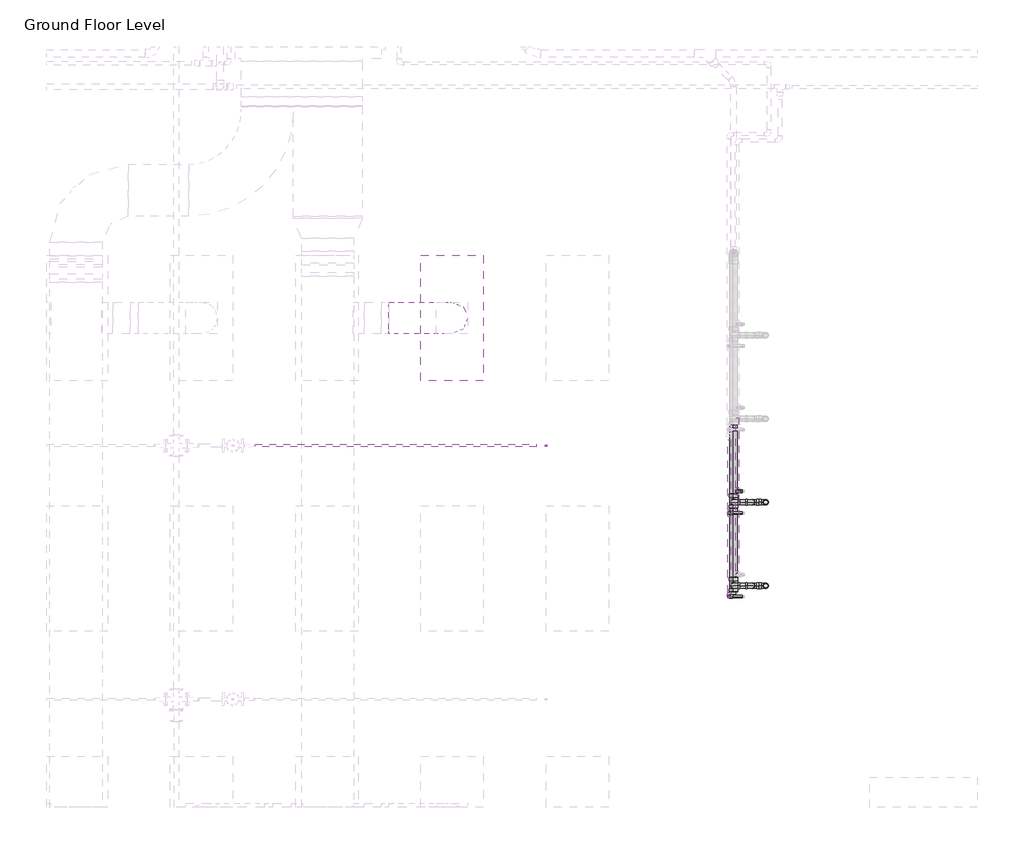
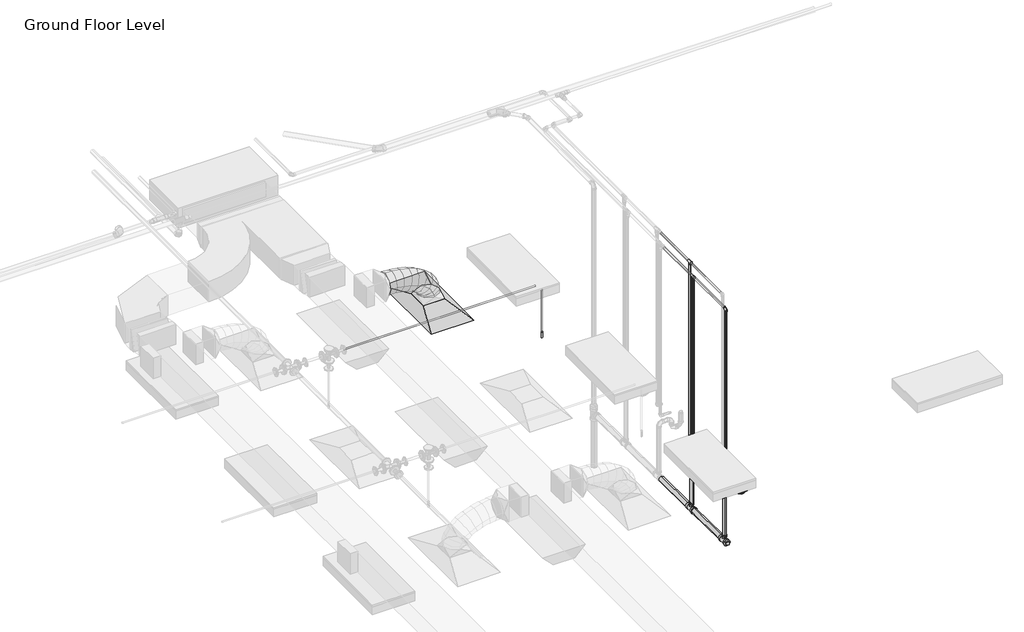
# One storey, part 49 of 68: 24 pipe segments, 17 pipe fittings, 1 air terminal, 1 duct segment, 1 fire suppression terminal.
"""IFC4 building model written with IfcOpenShell, lengths in millimetres."""

from ifc_helpers import new_model, si_unit, point, frame, frame_2d, origin, place, context, project, spatial, circle_curve, ellipse_curve, trimmed, segment, composite_curve, outline, extrude, transform, mapped, element, save
from ifc_brep_helpers import plane_surface, cylinder_surface, advanced_brep
from components import m_return_diffuser_1200x600_1200_x_600_face_300_x_300_d1983ef6, m_sprinkler_dry_pendent_hosted_15_mm_dry_pendent_9bda8e11, m_bend_pvc_sch_40_dwv_standard_738aab8b, m_plug_pvc_sch_40_dwv_standard_af737ab4, m_tee_reducing_sanitary_pvc_sch_40_dwv_standard_21d2848c, standard_b266ab3f, standard_636910a4

model = new_model("IFC4")

# Units and contexts
model_context = context("Model", 3, world=origin())
ifc_project = project(units=[si_unit("LENGTHUNIT", "METRE", prefix="MILLI")], contexts=[model_context])

# Site, building, storey
site = spatial("IfcSite", under=ifc_project)
building = spatial("IfcBuilding", under=site)
storey = spatial("IfcBuildingStorey", under=building, Name="Ground Floor Level", Elevation=900.0)

# Air terminal
placement = place(None, origin())
m_return_diffuser_1200x600_1200_x_600_face_300_x_300_shape = m_return_diffuser_1200x600_1200_x_600_face_300_x_300_d1983ef6(model_context)
element("IfcAirTerminal", 1, ObjectType="M_Supply Diffuser 1200x600 : 1200 x 600 Face 300 x 300 Connection", at=placement, inside=storey, context=model_context, shape_type="MappedRepresentation", body=[
    mapped(m_return_diffuser_1200x600_1200_x_600_face_300_x_300_shape, transform((-3337.2327605, 11235.2153534, 3650.0), x_axis=(0.0, 1.0, 0.0), y_axis=(-1.0, 0.0, 0.0), z_axis=(0.0, 0.0, 1.0))),
])

# Duct segment
element("IfcDuctSegment", 2, ObjectType="Flex - Round", at=placement, inside=storey, context=model_context, shape_type="AdvancedBrep", body=[
    advanced_brep(
    [(-3187.2327605, 11235.2153534, 3826.6), (-3337.2327605, 11085.2153534, 3826.6), (-3487.2327605, 11235.2153534, 3826.6), (-3337.2327605, 11385.2153534, 3826.6), (-3187.2327605, 11235.2153534, 3882.126257), (-3337.2327605, 11085.2153534, 3857.3050511), (-3487.2327605, 11235.2153534, 3832.4838453), (-3337.2327605, 11385.2153534, 3857.3050511), (-3218.4262882, 11235.2153534, 3973.8000574), (-3353.8942835, 11085.2153534, 3906.2711428), (-3489.3622789, 11235.2153534, 3838.7422282), (-3353.8942835, 11385.2153534, 3906.2711428), (-3288.1608022, 11235.2153534, 4076.4131518), (-3399.7726231, 11085.2153534, 3973.7803017), (-3511.3844439, 11235.2153534, 3871.1474515), (-3399.7726231, 11385.2153534, 3973.7803017), (-3386.0893727, 11235.2153534, 4155.7119505), (-3468.7084348, 11085.2153534, 4029.6018768), (-3551.3274968, 11235.2153534, 3903.4918031), (-3468.7084348, 11385.2153534, 4029.6018768), (-3494.8345319, 11235.2153534, 4212.2274343), (-3554.5423743, 11085.2153534, 4074.2102682), (-3614.2502168, 11235.2153534, 3936.193102), (-3554.5423743, 11385.2153534, 4074.2102682), (-3609.1269227, 11235.2153534, 4252.3116148), (-3651.1150974, 11085.2153534, 4108.0798761), (-3693.1032721, 11235.2153534, 3963.8481373), (-3651.1150974, 11385.2153534, 4108.0798761), (-3724.8585456, 11235.2153534, 4279.3191535), (-3752.2672597, 11085.2153534, 4131.6851006), (-3779.6759737, 11235.2153534, 3984.0510476), (-3752.2672597, 11385.2153534, 4131.6851006), (-3837.5181627, 11235.2153534, 4294.9502122), (-3851.8395168, 11085.2153534, 4145.5003418), (-3866.1608709, 11235.2153534, 3996.0504715), (-3851.8395168, 11385.2153534, 4145.5003418), (-3932.3402653, 11235.2153534, 4300.0), (-3936.3315914, 11085.2153534, 4150.0), (-3940.3229175, 11235.2153534, 4000.0), (-3936.3315914, 11385.2153534, 4150.0), (-3943.6725245, 11235.2153534, 4300.0), (-3943.6725245, 11385.2153534, 4150.0), (-3943.6725245, 11235.2153534, 4000.0), (-3943.6725245, 11085.2153534, 4150.0)],
    [
        (0, 1, circle_curve(frame((-3337.2327605, 11235.2153534, 3826.6), z_axis=(0.0, 0.0, -1.0), x_axis=(1.0, 0.0, 0.0)), 150.0)),
        (1, 2, circle_curve(frame((-3337.2327605, 11235.2153534, 3826.6), z_axis=(0.0, 0.0, -1.0), x_axis=(1.0, 0.0, 0.0)), 150.0)),
        (2, 3, circle_curve(frame((-3337.2327605, 11235.2153534, 3826.6), z_axis=(0.0, 0.0, -1.0), x_axis=(1.0, 0.0, 0.0)), 150.0)),
        (3, 0, circle_curve(frame((-3337.2327605, 11235.2153534, 3826.6), z_axis=(0.0, 0.0, -1.0), x_axis=(1.0, 0.0, 0.0)), 150.0)),
        (0, 4),
        (4, 5, ellipse_curve(frame((-3337.2327605, 11235.2153534, 3857.3050511), z_axis=(0.16325469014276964, 0.0, -0.9865839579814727), x_axis=(-0.9865839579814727, 0.0, -0.16325469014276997)), 152.039772, 150.0)),
        (5, 1),
        (5, 6, ellipse_curve(frame((-3337.2327605, 11235.2153534, 3857.3050511), z_axis=(0.16325469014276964, 0.0, -0.9865839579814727), x_axis=(-0.9865839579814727, 0.0, -0.16325469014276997)), 152.039772, 150.0)),
        (6, 2),
        (6, 7, ellipse_curve(frame((-3337.2327605, 11235.2153534, 3857.3050511), z_axis=(0.16325469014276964, 0.0, -0.9865839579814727), x_axis=(-0.9865839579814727, 0.0, -0.16325469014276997)), 152.039772, 150.0)),
        (7, 3),
        (7, 4, ellipse_curve(frame((-3337.2327605, 11235.2153534, 3857.3050511), z_axis=(0.16325469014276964, 0.0, -0.9865839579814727), x_axis=(-0.9865839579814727, 0.0, -0.16325469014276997)), 152.039772, 150.0)),
        (4, 8),
        (8, 9, ellipse_curve(frame((-3353.8942835, 11235.2153534, 3906.2711428), z_axis=(0.4461293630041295, 0.0, -0.8949684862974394), x_axis=(-0.8949684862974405, 0.0, -0.4461293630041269)), 151.3662184, 150.0)),
        (9, 5),
        (9, 10, ellipse_curve(frame((-3353.8942835, 11235.2153534, 3906.2711428), z_axis=(0.4461293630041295, 0.0, -0.8949684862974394), x_axis=(-0.8949684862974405, 0.0, -0.4461293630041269)), 151.3662184, 150.0)),
        (10, 6),
        (10, 11, ellipse_curve(frame((-3353.8942835, 11235.2153534, 3906.2711428), z_axis=(0.4461293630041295, 0.0, -0.8949684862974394), x_axis=(-0.8949684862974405, 0.0, -0.4461293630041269)), 151.3662184, 150.0)),
        (11, 7),
        (11, 8, ellipse_curve(frame((-3353.8942835, 11235.2153534, 3906.2711428), z_axis=(0.4461293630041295, 0.0, -0.8949684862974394), x_axis=(-0.8949684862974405, 0.0, -0.4461293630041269)), 151.3662184, 150.0)),
        (8, 12),
        (12, 13, ellipse_curve(frame((-3399.7726231, 11235.2153534, 3973.7803017), z_axis=(0.6768778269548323, 0.0, -0.7360953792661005), x_axis=(-0.7360953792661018, 0.0, -0.676877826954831)), 151.6268462, 150.0)),
        (13, 9),
        (13, 14, ellipse_curve(frame((-3399.7726231, 11235.2153534, 3973.7803017), z_axis=(0.6768778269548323, 0.0, -0.7360953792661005), x_axis=(-0.7360953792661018, 0.0, -0.676877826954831)), 151.6268462, 150.0)),
        (14, 10),
        (14, 15, ellipse_curve(frame((-3399.7726231, 11235.2153534, 3973.7803017), z_axis=(0.6768778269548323, 0.0, -0.7360953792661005), x_axis=(-0.7360953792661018, 0.0, -0.676877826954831)), 151.6268462, 150.0)),
        (15, 11),
        (15, 12, ellipse_curve(frame((-3399.7726231, 11235.2153534, 3973.7803017), z_axis=(0.6768778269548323, 0.0, -0.7360953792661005), x_axis=(-0.7360953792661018, 0.0, -0.676877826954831)), 151.6268462, 150.0)),
        (12, 16),
        (16, 17, ellipse_curve(frame((-3468.7084348, 11235.2153534, 4029.6018768), z_axis=(0.8364756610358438, 0.0, -0.5480040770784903), x_axis=(-0.5480040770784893, 0.0, -0.8364756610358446)), 150.7635901, 150.0)),
        (17, 13),
        (17, 18, ellipse_curve(frame((-3468.7084348, 11235.2153534, 4029.6018768), z_axis=(0.8364756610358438, 0.0, -0.5480040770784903), x_axis=(-0.5480040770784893, 0.0, -0.8364756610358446)), 150.7635901, 150.0)),
        (18, 14),
        (18, 19, ellipse_curve(frame((-3468.7084348, 11235.2153534, 4029.6018768), z_axis=(0.8364756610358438, 0.0, -0.5480040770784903), x_axis=(-0.5480040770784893, 0.0, -0.8364756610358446)), 150.7635901, 150.0)),
        (19, 15),
        (19, 16, ellipse_curve(frame((-3468.7084348, 11235.2153534, 4029.6018768), z_axis=(0.8364756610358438, 0.0, -0.5480040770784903), x_axis=(-0.5480040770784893, 0.0, -0.8364756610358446)), 150.7635901, 150.0)),
        (16, 20),
        (20, 21, ellipse_curve(frame((-3554.5423743, 11235.2153534, 4074.2102682), z_axis=(0.9177970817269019, 0.0, -0.3970497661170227), x_axis=(-0.39704976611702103, 0.0, -0.9177970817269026)), 150.3787372, 150.0)),
        (21, 17),
        (21, 22, ellipse_curve(frame((-3554.5423743, 11235.2153534, 4074.2102682), z_axis=(0.9177970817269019, 0.0, -0.3970497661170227), x_axis=(-0.39704976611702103, 0.0, -0.9177970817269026)), 150.3787372, 150.0)),
        (22, 18),
        (22, 23, ellipse_curve(frame((-3554.5423743, 11235.2153534, 4074.2102682), z_axis=(0.9177970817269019, 0.0, -0.3970497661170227), x_axis=(-0.39704976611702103, 0.0, -0.9177970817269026)), 150.3787372, 150.0)),
        (23, 19),
        (23, 20, ellipse_curve(frame((-3554.5423743, 11235.2153534, 4074.2102682), z_axis=(0.9177970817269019, 0.0, -0.3970497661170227), x_axis=(-0.39704976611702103, 0.0, -0.9177970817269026)), 150.3787372, 150.0)),
        (20, 24),
        (24, 25, ellipse_curve(frame((-3651.1150974, 11235.2153534, 4108.0798761), z_axis=(0.9601419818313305, 0.0, -0.2795127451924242), x_axis=(-0.2795127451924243, 0.0, -0.9601419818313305)), 150.2191774, 150.0)),
        (25, 21),
        (25, 26, ellipse_curve(frame((-3651.1150974, 11235.2153534, 4108.0798761), z_axis=(0.9601419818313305, 0.0, -0.2795127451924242), x_axis=(-0.2795127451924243, 0.0, -0.9601419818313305)), 150.2191774, 150.0)),
        (26, 22),
        (26, 27, ellipse_curve(frame((-3651.1150974, 11235.2153534, 4108.0798761), z_axis=(0.9601419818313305, 0.0, -0.2795127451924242), x_axis=(-0.2795127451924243, 0.0, -0.9601419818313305)), 150.2191774, 150.0)),
        (27, 23),
        (27, 24, ellipse_curve(frame((-3651.1150974, 11235.2153534, 4108.0798761), z_axis=(0.9601419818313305, 0.0, -0.2795127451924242), x_axis=(-0.2795127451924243, 0.0, -0.9601419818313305)), 150.2191774, 150.0)),
        (24, 28),
        (28, 29, ellipse_curve(frame((-3752.2672597, 11235.2153534, 4131.6851006), z_axis=(0.9831995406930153, 0.0, -0.18253400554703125), x_axis=(-0.18253400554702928, 0.0, -0.9831995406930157)), 150.1567554, 150.0)),
        (29, 25),
        (29, 30, ellipse_curve(frame((-3752.2672597, 11235.2153534, 4131.6851006), z_axis=(0.9831995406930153, 0.0, -0.18253400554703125), x_axis=(-0.18253400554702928, 0.0, -0.9831995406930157)), 150.1567554, 150.0)),
        (30, 26),
        (30, 31, ellipse_curve(frame((-3752.2672597, 11235.2153534, 4131.6851006), z_axis=(0.9831995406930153, 0.0, -0.18253400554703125), x_axis=(-0.18253400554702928, 0.0, -0.9831995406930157)), 150.1567554, 150.0)),
        (31, 27),
        (31, 28, ellipse_curve(frame((-3752.2672597, 11235.2153534, 4131.6851006), z_axis=(0.9831995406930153, 0.0, -0.18253400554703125), x_axis=(-0.18253400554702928, 0.0, -0.9831995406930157)), 150.1567554, 150.0)),
        (28, 32),
        (32, 33, ellipse_curve(frame((-3851.8395168, 11235.2153534, 4145.5003418), z_axis=(0.9954399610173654, 0.0, -0.09539016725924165), x_axis=(-0.09539016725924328, 0.0, -0.9954399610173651)), 150.1344895, 150.0)),
        (33, 29),
        (33, 34, ellipse_curve(frame((-3851.8395168, 11235.2153534, 4145.5003418), z_axis=(0.9954399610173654, 0.0, -0.09539016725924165), x_axis=(-0.09539016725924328, 0.0, -0.9954399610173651)), 150.1344895, 150.0)),
        (34, 30),
        (34, 35, ellipse_curve(frame((-3851.8395168, 11235.2153534, 4145.5003418), z_axis=(0.9954399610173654, 0.0, -0.09539016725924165), x_axis=(-0.09539016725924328, 0.0, -0.9954399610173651)), 150.1344895, 150.0)),
        (35, 31),
        (35, 32, ellipse_curve(frame((-3851.8395168, 11235.2153534, 4145.5003418), z_axis=(0.9954399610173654, 0.0, -0.09539016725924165), x_axis=(-0.09539016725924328, 0.0, -0.9954399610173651)), 150.1344895, 150.0)),
        (32, 36),
        (36, 37, ellipse_curve(frame((-3936.3315914, 11235.2153534, 4150.0), z_axis=(0.9996461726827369, 0.0, -0.026599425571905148), x_axis=(-0.026599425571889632, 0.0, -0.9996461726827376)), 150.0530929, 150.0)),
        (37, 33),
        (37, 38, ellipse_curve(frame((-3936.3315914, 11235.2153534, 4150.0), z_axis=(0.9996461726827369, 0.0, -0.026599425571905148), x_axis=(-0.026599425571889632, 0.0, -0.9996461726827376)), 150.0530929, 150.0)),
        (38, 34),
        (38, 39, ellipse_curve(frame((-3936.3315914, 11235.2153534, 4150.0), z_axis=(0.9996461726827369, 0.0, -0.026599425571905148), x_axis=(-0.026599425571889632, 0.0, -0.9996461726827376)), 150.0530929, 150.0)),
        (39, 35),
        (39, 36, ellipse_curve(frame((-3936.3315914, 11235.2153534, 4150.0), z_axis=(0.9996461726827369, 0.0, -0.026599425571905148), x_axis=(-0.026599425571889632, 0.0, -0.9996461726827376)), 150.0530929, 150.0)),
        (40, 41, circle_curve(frame((-3943.6725245, 11235.2153534, 4150.0), z_axis=(-1.0, 0.0, 0.0), x_axis=(0.0, 0.0, 1.0)), 150.0)),
        (41, 42, circle_curve(frame((-3943.6725245, 11235.2153534, 4150.0), z_axis=(-1.0, 0.0, 0.0), x_axis=(0.0, 0.0, 1.0)), 150.0)),
        (42, 43, circle_curve(frame((-3943.6725245, 11235.2153534, 4150.0), z_axis=(-1.0, 0.0, 0.0), x_axis=(0.0, 0.0, 1.0)), 150.0)),
        (43, 40, circle_curve(frame((-3943.6725245, 11235.2153534, 4150.0), z_axis=(-1.0, 0.0, 0.0), x_axis=(0.0, 0.0, 1.0)), 150.0)),
        (36, 40),
        (43, 37),
        (42, 38),
        (41, 39),
    ],
    [
        plane_surface(frame((-3337.2327605, 11085.2153534, 3826.6), z_axis=(0.0, 0.0, -1.0), x_axis=(1.0, 0.0, 0.0))),
        cylinder_surface(frame((-3337.2327605, 11235.2153534, 3826.6), z_axis=(0.0, 0.0, -1.0), x_axis=(1.0, 0.0, 0.0)), 150.0),
        cylinder_surface(frame((-3337.2327605, 11235.2153534, 3857.3050511), z_axis=(0.3221289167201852, 0.0, -0.9466958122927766), x_axis=(0.9466958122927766, 0.0, 0.3221289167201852)), 150.0),
        cylinder_surface(frame((-3353.8942835, 11235.2153534, 3906.2711428), z_axis=(0.5620763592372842, 0.0, -0.827085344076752), x_axis=(0.827085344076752, 0.0, 0.5620763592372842)), 150.0),
        cylinder_surface(frame((-3399.7726231, 11235.2153534, 3973.7803017), z_axis=(0.7771544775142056, 0.0, -0.6293098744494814), x_axis=(0.6293098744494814, 0.0, 0.7771544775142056)), 150.0),
        cylinder_surface(frame((-3468.7084348, 11235.2153534, 4029.6018768), z_axis=(0.8873236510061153, 0.0, -0.4611471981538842), x_axis=(0.4611471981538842, 0.0, 0.8873236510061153)), 150.0),
        cylinder_surface(frame((-3554.5423743, 11235.2153534, 4074.2102682), z_axis=(0.9436474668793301, 0.0, -0.3309523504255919), x_axis=(0.3309523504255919, 0.0, 0.9436474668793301)), 150.0),
        cylinder_surface(frame((-3651.1150974, 11235.2153534, 4108.0798761), z_axis=(0.9738347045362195, 0.0, -0.22725749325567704), x_axis=(0.22725749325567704, 0.0, 0.9738347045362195)), 150.0),
        cylinder_surface(frame((-3752.2672597, 11235.2153534, 4131.6851006), z_axis=(0.9905115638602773, 0.0, -0.1374294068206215), x_axis=(0.1374294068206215, 0.0, 0.9905115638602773)), 150.0),
        cylinder_surface(frame((-3851.8395168, 11235.2153534, 4145.5003418), z_axis=(0.9985849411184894, 0.0, -0.05318002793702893), x_axis=(0.05318002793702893, 0.0, 0.9985849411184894)), 150.0),
        plane_surface(frame((-3943.6725245, 11235.2153534, 4000.0), z_axis=(-1.0, 0.0, 0.0), x_axis=(0.0, -1.0, 0.0))),
        cylinder_surface(frame((-3936.3315914, 11235.2153534, 4150.0), z_axis=(1.0, 0.0, 0.0), x_axis=(0.0, 0.0, 1.0)), 150.0),
    ],
    [
        (0, [[1, 2, 3, 4]]),
        (1, [[-1, 5, 6, 7]]),
        (1, [[-2, -7, 8, 9]]),
        (1, [[-3, -9, 10, 11]]),
        (1, [[-4, -11, 12, -5]]),
        (2, [[-6, 13, 14, 15]]),
        (2, [[-8, -15, 16, 17]]),
        (2, [[-10, -17, 18, 19]]),
        (2, [[-12, -19, 20, -13]]),
        (3, [[-14, 21, 22, 23]]),
        (3, [[-16, -23, 24, 25]]),
        (3, [[-18, -25, 26, 27]]),
        (3, [[-20, -27, 28, -21]]),
        (4, [[-22, 29, 30, 31]]),
        (4, [[-24, -31, 32, 33]]),
        (4, [[-26, -33, 34, 35]]),
        (4, [[-28, -35, 36, -29]]),
        (5, [[-30, 37, 38, 39]]),
        (5, [[-32, -39, 40, 41]]),
        (5, [[-34, -41, 42, 43]]),
        (5, [[-36, -43, 44, -37]]),
        (6, [[-38, 45, 46, 47]]),
        (6, [[-40, -47, 48, 49]]),
        (6, [[-42, -49, 50, 51]]),
        (6, [[-44, -51, 52, -45]]),
        (7, [[-46, 53, 54, 55]]),
        (7, [[-48, -55, 56, 57]]),
        (7, [[-50, -57, 58, 59]]),
        (7, [[-52, -59, 60, -53]]),
        (8, [[-54, 61, 62, 63]]),
        (8, [[-56, -63, 64, 65]]),
        (8, [[-58, -65, 66, 67]]),
        (8, [[-60, -67, 68, -61]]),
        (9, [[-62, 69, 70, 71]]),
        (9, [[-64, -71, 72, 73]]),
        (9, [[-66, -73, 74, 75]]),
        (9, [[-68, -75, 76, -69]]),
        (10, [[77, 78, 79, 80]]),
        (11, [[-70, 81, -80, 82]]),
        (11, [[-72, -82, -79, 83]]),
        (11, [[-74, -83, -78, 84]]),
        (11, [[-76, -84, -77, -81]]),
    ],
),
])

# Fire suppression terminal
m_sprinkler_dry_pendent_hosted_15_mm_dry_pendent_shape = m_sprinkler_dry_pendent_hosted_15_mm_dry_pendent_9bda8e11(model_context)
element("IfcFireSuppressionTerminal", 3, ObjectType="M_Sprinkler - Dry - Pendent - Hosted : 15 mm Dry Pendent", at=placement, inside=storey, context=model_context, shape_type="MappedRepresentation", body=[
    mapped(m_sprinkler_dry_pendent_hosted_15_mm_dry_pendent_shape, transform((-2437.2327605, 10013.008259, 3650.0), x_axis=(1.0, 0.0, 0.0), y_axis=(0.0, -1.0, 0.0), z_axis=(0.0, 0.0, -1.0))),
])

# Pipe fittings
m_bend_pvc_sch_40_dwv_standard_shape = m_bend_pvc_sch_40_dwv_standard_738aab8b(model_context)
element("IfcPipeFitting", 4, ObjectType="M_Bend - PVC - Sch 40 - DWV : Standard", at=placement, inside=storey, context=model_context, shape_type="MappedRepresentation", body=[
    mapped(m_bend_pvc_sch_40_dwv_standard_shape, transform((-463.6645494, 8671.1979139, 1370.0), x_axis=(-1.0, 0.0, 0.0), y_axis=(0.0, 0.0, 1.0), z_axis=(0.0, 1.0, 0.0))),
])
element("IfcPipeFitting", 5, ObjectType="M_Bend - PVC - Sch 40 - DWV : Standard", at=placement, inside=storey, context=model_context, shape_type="MappedRepresentation", body=[
    mapped(m_bend_pvc_sch_40_dwv_standard_shape, transform((-463.6645494, 8671.1979139, 1510.0), x_axis=(0.0, 0.0, 1.0), y_axis=(-1.0, 0.0, 0.0), z_axis=(0.0, -1.0, 0.0))),
])
element("IfcPipeFitting", 6, ObjectType="M_Bend - PVC - Sch 40 - DWV : Standard", at=placement, inside=storey, context=model_context, shape_type="MappedRepresentation", body=[
    mapped(m_bend_pvc_sch_40_dwv_standard_shape, transform((-463.6645494, 9471.1979139, 1370.0), x_axis=(-1.0, 0.0, 0.0), y_axis=(0.0, 0.0, 1.0), z_axis=(0.0, 1.0, 0.0))),
])
element("IfcPipeFitting", 7, ObjectType="M_Bend - PVC - Sch 40 - DWV : Standard", at=placement, inside=storey, context=model_context, shape_type="MappedRepresentation", body=[
    mapped(m_bend_pvc_sch_40_dwv_standard_shape, transform((-463.6645494, 9471.1979139, 1510.0), x_axis=(0.0, 0.0, 1.0), y_axis=(-1.0, 0.0, 0.0), z_axis=(0.0, -1.0, 0.0))),
])
element("IfcPipeFitting", 8, ObjectType="M_Bend - PVC - Sch 40 - DWV : Standard", at=placement, inside=storey, context=model_context, shape_type="MappedRepresentation", body=[
    mapped(m_bend_pvc_sch_40_dwv_standard_shape, transform((-333.6645494, 8671.1979139, 1370.0), x_axis=(1.0, 0.0, 0.0), y_axis=(0.0, 0.0, 1.0), z_axis=(0.0, -1.0, 0.0))),
])
element("IfcPipeFitting", 9, ObjectType="M_Bend - PVC - Sch 40 - DWV : Standard", at=placement, inside=storey, context=model_context, shape_type="MappedRepresentation", body=[
    mapped(m_bend_pvc_sch_40_dwv_standard_shape, transform((-333.6645494, 9471.1979139, 1370.0), x_axis=(1.0, 0.0, 0.0), y_axis=(0.0, 0.0, 1.0), z_axis=(0.0, -1.0, 0.0))),
])
element("IfcPipeFitting", 10, ObjectType="M_Bend - PVC - Sch 40 - DWV : Standard", at=placement, inside=storey, context=model_context, shape_type="MappedRepresentation", body=[
    mapped(m_bend_pvc_sch_40_dwv_standard_shape, transform((-642.2301761, 8671.1979139, 1510.0), x_axis=(-1.0, 0.0, 0.0), y_axis=(0.0, 0.0, -1.0), z_axis=(0.0, -1.0, 0.0))),
])
element("IfcPipeFitting", 11, ObjectType="M_Bend - PVC - Sch 40 - DWV : Standard", at=placement, inside=storey, context=model_context, shape_type="MappedRepresentation", body=[
    mapped(m_bend_pvc_sch_40_dwv_standard_shape, transform((-642.2301761, 9471.1979139, 1510.0), x_axis=(-1.0, 0.0, 0.0), y_axis=(0.0, 0.0, -1.0), z_axis=(0.0, -1.0, 0.0))),
])
m_plug_pvc_sch_40_dwv_standard_shape = m_plug_pvc_sch_40_dwv_standard_af737ab4(model_context)
element("IfcPipeFitting", 12, ObjectType="M_Plug - PVC - Sch 40 - DWV : Standard", at=placement, inside=storey, context=model_context, shape_type="MappedRepresentation", body=[
    mapped(m_plug_pvc_sch_40_dwv_standard_shape, transform((-642.2301761, 8611.7151447, 727.6937137), x_axis=(0.0, -0.9999500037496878, 0.009999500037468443), y_axis=(0.0, -0.009999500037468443, -0.9999500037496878), z_axis=(1.0, 0.0, 0.0))),
])
m_tee_reducing_sanitary_pvc_sch_40_dwv_standard_shape = m_tee_reducing_sanitary_pvc_sch_40_dwv_standard_21d2848c(model_context)
element("IfcPipeFitting", 13, ObjectType="M_Tee Reducing Sanitary - PVC - Sch 40 - DWV : Standard", at=placement, inside=storey, context=model_context, shape_type="MappedRepresentation", body=[
    mapped(m_tee_reducing_sanitary_pvc_sch_40_dwv_standard_shape, transform((-642.2301761, 9471.1979139, 719.098886), x_axis=(0.0, -0.9999500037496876, 0.009999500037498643), y_axis=(0.0, -0.009999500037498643, -0.9999500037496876), z_axis=(1.0, 0.0, 0.0))),
])
element("IfcPipeFitting", 14, ObjectType="M_Tee Reducing Sanitary - PVC - Sch 40 - DWV : Standard", at=placement, inside=storey, context=model_context, shape_type="MappedRepresentation", body=[
    mapped(m_tee_reducing_sanitary_pvc_sch_40_dwv_standard_shape, transform((-642.2301761, 8671.1979139, 727.098886), x_axis=(0.0, -0.9999500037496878, 0.009999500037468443), y_axis=(0.0, -0.009999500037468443, -0.9999500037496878), z_axis=(1.0, 0.0, 0.0))),
])
standard_shape = standard_b266ab3f(model_context)
element("IfcPipeFitting", 15, ObjectType="M_Elbow - CPVC - Sch 40 : Standard", at=placement, inside=storey, context=model_context, shape_type="MappedRepresentation", body=[
    mapped(standard_shape, transform((-607.2327605, 9575.5128345, 1690.0), x_axis=(0.0, 0.0, -1.0), y_axis=(1.0, 0.0, 0.0), z_axis=(0.0, -1.0, 0.0))),
])
element("IfcPipeFitting", 16, ObjectType="M_Elbow - CPVC - Sch 40 : Standard", at=placement, inside=storey, context=model_context, shape_type="MappedRepresentation", body=[
    mapped(standard_shape, transform((-684.0671674, 8566.8829933, 1690.0), x_axis=(-1.0, 0.0, 0.0), y_axis=(0.0, 0.0, 1.0), z_axis=(0.0, 1.0, 0.0))),
])
element("IfcPipeFitting", 17, ObjectType="M_Elbow - CPVC - Sch 40 : Standard", at=placement, inside=storey, context=model_context, shape_type="MappedRepresentation", body=[
    mapped(standard_shape, transform((-684.0671674, 8566.8829933, 4250.0), x_axis=(0.0, 0.0, 1.0), y_axis=(0.0, 1.0, 0.0), z_axis=(-1.0, 0.0, 0.0))),
])
element("IfcPipeFitting", 18, ObjectType="M_Elbow - CPVC - Sch 40 : Standard", at=placement, inside=storey, context=model_context, shape_type="MappedRepresentation", body=[
    mapped(standard_shape, transform((-684.0671674, 9366.8829933, 1690.0), x_axis=(-1.0, 0.0, 0.0), y_axis=(0.0, 0.0, 1.0), z_axis=(0.0, 1.0, 0.0))),
])
standard_2_shape = standard_636910a4(model_context)
element("IfcPipeFitting", 19, ObjectType="M_Tee - CPVC - Sch 40 : Standard", at=placement, inside=storey, context=model_context, shape_type="MappedRepresentation", body=[
    mapped(standard_2_shape, transform((-607.2327605, 9575.5128345, 4315.0), x_axis=(0.0, 1.0, 0.0), y_axis=(0.0, 0.0, 1.0), z_axis=(1.0, 0.0, 0.0))),
])
element("IfcPipeFitting", 20, ObjectType="M_Tee - CPVC - Sch 40 : Standard", at=placement, inside=storey, context=model_context, shape_type="MappedRepresentation", body=[
    mapped(standard_2_shape, transform((-684.0671674, 9366.8829933, 4250.0), x_axis=(0.0, -1.0, 0.0), y_axis=(0.0, 0.0, 1.0), z_axis=(-1.0, 0.0, 0.0))),
])

# Pipe segments
element("IfcPipeSegment", 21, ObjectType="CPVC", at=placement, inside=storey, context=model_context, shape_type="SweptSolid", body=[
    extrude(outline(composite_curve([segment(trimmed(circle_curve(frame_2d((9575.5128345, 1690.0)), 13.335), [point((9562.1778345, 1690.0))], [point((9575.5128345, 1703.335))], False, "CARTESIAN"), True, "CONTINUOUS"), segment(trimmed(circle_curve(frame_2d((9575.5128345, 1690.0)), 13.335), [point((9575.5128345, 1703.335))], [point((9588.8478345, 1690.0))], False, "CARTESIAN"), True, "CONTINUOUS"), segment(trimmed(circle_curve(frame_2d((9575.5128345, 1690.0)), 13.335), [point((9588.8478345, 1690.0))], [point((9575.5128345, 1676.665))], False, "CARTESIAN"), True, "CONTINUOUS"), segment(trimmed(circle_curve(frame_2d((9575.5128345, 1690.0)), 13.335), [point((9575.5128345, 1676.665))], [point((9562.1778345, 1690.0))], False, "CARTESIAN"), True, "CONTINUOUS")], self_intersect=False)), frame((-571.9077105, 0.0, 0.0), z_axis=(1.0, 0.0, 0.0), x_axis=(0.0, 1.0, 0.0)), (0.0, 0.0, 1.0), 14.67495),
])
element("IfcPipeSegment", 22, ObjectType="CPVC", at=placement, inside=storey, context=model_context, shape_type="SweptSolid", body=[
    extrude(outline(composite_curve([segment(trimmed(circle_curve(frame_2d((-607.2327605, 9575.5128345)), 13.335), [point((-593.8977605, 9575.5128345))], [point((-607.2327605, 9562.1778345))], False, "CARTESIAN"), True, "CONTINUOUS"), segment(trimmed(circle_curve(frame_2d((-607.2327605, 9575.5128345)), 13.335), [point((-607.2327605, 9562.1778345))], [point((-620.5677605, 9575.5128345))], False, "CARTESIAN"), True, "CONTINUOUS"), segment(trimmed(circle_curve(frame_2d((-607.2327605, 9575.5128345)), 13.335), [point((-620.5677605, 9575.5128345))], [point((-607.2327605, 9588.8478345))], False, "CARTESIAN"), True, "CONTINUOUS"), segment(trimmed(circle_curve(frame_2d((-607.2327605, 9575.5128345)), 13.335), [point((-607.2327605, 9588.8478345))], [point((-593.8977605, 9575.5128345))], False, "CARTESIAN"), True, "CONTINUOUS")], self_intersect=False)), frame((0.0, 0.0, 1725.32505), z_axis=(0.0, 0.0, 1.0), x_axis=(1.0, 0.0, 0.0)), (0.0, 0.0, 1.0), 2557.13755),
])
element("IfcPipeSegment", 23, ObjectType="CPVC", at=placement, inside=storey, context=model_context, shape_type="SweptSolid", body=[
    extrude(outline(composite_curve([segment(trimmed(circle_curve(frame_2d((4315.0, -607.2327605)), 13.335), [point((4315.0, -620.5677605))], [point((4301.665, -607.2327605))], False, "CARTESIAN"), True, "CONTINUOUS"), segment(trimmed(circle_curve(frame_2d((4315.0, -607.2327605)), 13.335), [point((4301.665, -607.2327605))], [point((4315.0, -593.8977605))], False, "CARTESIAN"), True, "CONTINUOUS"), segment(trimmed(circle_curve(frame_2d((4315.0, -607.2327605)), 13.335), [point((4315.0, -593.8977605))], [point((4328.335, -607.2327605))], False, "CARTESIAN"), True, "CONTINUOUS"), segment(trimmed(circle_curve(frame_2d((4315.0, -607.2327605)), 13.335), [point((4328.335, -607.2327605))], [point((4315.0, -620.5677605))], False, "CARTESIAN"), True, "CONTINUOUS")], self_intersect=False)), frame((0.0, 9608.0502345, 0.0), z_axis=(0.0, 1.0, 0.0), x_axis=(0.0, 0.0, 1.0)), (0.0, 0.0, 1.0), 670.6124),
])
element("IfcPipeSegment", 24, ObjectType="CPVC", at=placement, inside=storey, context=model_context, shape_type="SweptSolid", body=[
    extrude(outline(composite_curve([segment(trimmed(circle_curve(frame_2d((4315.0, -607.2327605)), 13.335), [point((4315.0, -620.5677605))], [point((4301.665, -607.2327605))], False, "CARTESIAN"), True, "CONTINUOUS"), segment(trimmed(circle_curve(frame_2d((4315.0, -607.2327605)), 13.335), [point((4301.665, -607.2327605))], [point((4315.0, -593.8977605))], False, "CARTESIAN"), True, "CONTINUOUS"), segment(trimmed(circle_curve(frame_2d((4315.0, -607.2327605)), 13.335), [point((4315.0, -593.8977605))], [point((4328.335, -607.2327605))], False, "CARTESIAN"), True, "CONTINUOUS"), segment(trimmed(circle_curve(frame_2d((4315.0, -607.2327605)), 13.335), [point((4328.335, -607.2327605))], [point((4315.0, -620.5677605))], False, "CARTESIAN"), True, "CONTINUOUS")], self_intersect=False)), frame((0.0, 8810.8378845, 0.0), z_axis=(0.0, 1.0, 0.0), x_axis=(0.0, 0.0, 1.0)), (0.0, 0.0, 1.0), 732.13755),
])
element("IfcPipeSegment", 25, ObjectType="CPVC", at=placement, inside=storey, context=model_context, shape_type="SweptSolid", body=[
    extrude(outline(composite_curve([segment(trimmed(circle_curve(frame_2d((8566.8829933, 1690.0)), 13.335), [point((8580.2179933, 1690.0))], [point((8566.8829933, 1676.665))], False, "CARTESIAN"), True, "CONTINUOUS"), segment(trimmed(circle_curve(frame_2d((8566.8829933, 1690.0)), 13.335), [point((8566.8829933, 1676.665))], [point((8553.5479933, 1690.0))], False, "CARTESIAN"), True, "CONTINUOUS"), segment(trimmed(circle_curve(frame_2d((8566.8829933, 1690.0)), 13.335), [point((8553.5479933, 1690.0))], [point((8566.8829933, 1703.335))], False, "CARTESIAN"), True, "CONTINUOUS"), segment(trimmed(circle_curve(frame_2d((8566.8829933, 1690.0)), 13.335), [point((8566.8829933, 1703.335))], [point((8580.2179933, 1690.0))], False, "CARTESIAN"), True, "CONTINUOUS")], self_intersect=False)), frame((-648.7421174, 0.0, 0.0), z_axis=(1.0, 0.0, 0.0), x_axis=(0.0, 1.0, 0.0)), (0.0, 0.0, 1.0), 91.5093569),
])
element("IfcPipeSegment", 26, ObjectType="CPVC", at=placement, inside=storey, context=model_context, shape_type="SweptSolid", body=[
    extrude(outline(composite_curve([segment(trimmed(circle_curve(frame_2d((-684.0671674, 8566.8829933)), 13.335), [point((-697.4021674, 8566.8829933))], [point((-684.0671674, 8580.2179933))], False, "CARTESIAN"), True, "CONTINUOUS"), segment(trimmed(circle_curve(frame_2d((-684.0671674, 8566.8829933)), 13.335), [point((-684.0671674, 8580.2179933))], [point((-670.7321674, 8566.8829933))], False, "CARTESIAN"), True, "CONTINUOUS"), segment(trimmed(circle_curve(frame_2d((-684.0671674, 8566.8829933)), 13.335), [point((-670.7321674, 8566.8829933))], [point((-684.0671674, 8553.5479933))], False, "CARTESIAN"), True, "CONTINUOUS"), segment(trimmed(circle_curve(frame_2d((-684.0671674, 8566.8829933)), 13.335), [point((-684.0671674, 8553.5479933))], [point((-697.4021674, 8566.8829933))], False, "CARTESIAN"), True, "CONTINUOUS")], self_intersect=False)), frame((0.0, 0.0, 1725.32505), z_axis=(0.0, 0.0, 1.0), x_axis=(1.0, 0.0, 0.0)), (0.0, 0.0, 1.0), 2489.3499),
])
element("IfcPipeSegment", 27, ObjectType="CPVC", at=placement, inside=storey, context=model_context, shape_type="SweptSolid", body=[
    extrude(outline(composite_curve([segment(trimmed(circle_curve(frame_2d((9366.8829933, 1690.0)), 13.335), [point((9380.2179933, 1690.0))], [point((9366.8829933, 1676.665))], False, "CARTESIAN"), True, "CONTINUOUS"), segment(trimmed(circle_curve(frame_2d((9366.8829933, 1690.0)), 13.335), [point((9366.8829933, 1676.665))], [point((9353.5479933, 1690.0))], False, "CARTESIAN"), True, "CONTINUOUS"), segment(trimmed(circle_curve(frame_2d((9366.8829933, 1690.0)), 13.335), [point((9353.5479933, 1690.0))], [point((9366.8829933, 1703.335))], False, "CARTESIAN"), True, "CONTINUOUS"), segment(trimmed(circle_curve(frame_2d((9366.8829933, 1690.0)), 13.335), [point((9366.8829933, 1703.335))], [point((9380.2179933, 1690.0))], False, "CARTESIAN"), True, "CONTINUOUS")], self_intersect=False)), frame((-648.7421174, 0.0, 0.0), z_axis=(1.0, 0.0, 0.0), x_axis=(0.0, 1.0, 0.0)), (0.0, 0.0, 1.0), 91.5093569),
])
element("IfcPipeSegment", 28, ObjectType="CPVC", at=placement, inside=storey, context=model_context, shape_type="SweptSolid", body=[
    extrude(outline(composite_curve([segment(trimmed(circle_curve(frame_2d((-684.0671674, 9366.8829933)), 13.335), [point((-697.4021674, 9366.8829933))], [point((-684.0671674, 9380.2179933))], False, "CARTESIAN"), True, "CONTINUOUS"), segment(trimmed(circle_curve(frame_2d((-684.0671674, 9366.8829933)), 13.335), [point((-684.0671674, 9380.2179933))], [point((-670.7321674, 9366.8829933))], False, "CARTESIAN"), True, "CONTINUOUS"), segment(trimmed(circle_curve(frame_2d((-684.0671674, 9366.8829933)), 13.335), [point((-670.7321674, 9366.8829933))], [point((-684.0671674, 9353.5479933))], False, "CARTESIAN"), True, "CONTINUOUS"), segment(trimmed(circle_curve(frame_2d((-684.0671674, 9366.8829933)), 13.335), [point((-684.0671674, 9353.5479933))], [point((-697.4021674, 9366.8829933))], False, "CARTESIAN"), True, "CONTINUOUS")], self_intersect=False)), frame((0.0, 0.0, 1725.32505), z_axis=(0.0, 0.0, 1.0), x_axis=(1.0, 0.0, 0.0)), (0.0, 0.0, 1.0), 2492.13755),
])
element("IfcPipeSegment", 29, ObjectType="CPVC", at=placement, inside=storey, context=model_context, shape_type="SweptSolid", body=[
    extrude(outline(composite_curve([segment(trimmed(circle_curve(frame_2d((4250.0, -684.0671674)), 13.335), [point((4250.0, -670.7321674))], [point((4263.335, -684.0671674))], False, "CARTESIAN"), True, "CONTINUOUS"), segment(trimmed(circle_curve(frame_2d((4250.0, -684.0671674)), 13.335), [point((4263.335, -684.0671674))], [point((4250.0, -697.4021674))], False, "CARTESIAN"), True, "CONTINUOUS"), segment(trimmed(circle_curve(frame_2d((4250.0, -684.0671674)), 13.335), [point((4250.0, -697.4021674))], [point((4236.665, -684.0671674))], False, "CARTESIAN"), True, "CONTINUOUS"), segment(trimmed(circle_curve(frame_2d((4250.0, -684.0671674)), 13.335), [point((4236.665, -684.0671674))], [point((4250.0, -670.7321674))], False, "CARTESIAN"), True, "CONTINUOUS")], self_intersect=False)), frame((0.0, 8602.2080433, 0.0), z_axis=(0.0, 1.0, 0.0), x_axis=(0.0, 0.0, 1.0)), (0.0, 0.0, 1.0), 732.13755),
])
element("IfcPipeSegment", 30, ObjectType="CPVC", at=placement, inside=storey, context=model_context, shape_type="SweptSolid", body=[
    extrude(outline(composite_curve([segment(trimmed(circle_curve(frame_2d((4250.0, -684.0671674)), 13.335), [point((4250.0, -670.7321674))], [point((4263.335, -684.0671674))], False, "CARTESIAN"), True, "CONTINUOUS"), segment(trimmed(circle_curve(frame_2d((4250.0, -684.0671674)), 13.335), [point((4263.335, -684.0671674))], [point((4250.0, -697.4021674))], False, "CARTESIAN"), True, "CONTINUOUS"), segment(trimmed(circle_curve(frame_2d((4250.0, -684.0671674)), 13.335), [point((4250.0, -697.4021674))], [point((4236.665, -684.0671674))], False, "CARTESIAN"), True, "CONTINUOUS"), segment(trimmed(circle_curve(frame_2d((4250.0, -684.0671674)), 13.335), [point((4236.665, -684.0671674))], [point((4250.0, -670.7321674))], False, "CARTESIAN"), True, "CONTINUOUS")], self_intersect=False)), frame((0.0, 9399.4203933, 0.0), z_axis=(0.0, 1.0, 0.0), x_axis=(0.0, 0.0, 1.0)), (0.0, 0.0, 1.0), 670.6124),
])
element("IfcPipeSegment", 31, ObjectType="PVC - DWV", at=placement, inside=storey, context=model_context, shape_type="SweptSolid", body=[
    extrude(outline(composite_curve([segment(trimmed(circle_curve(frame_2d((-333.6645494, 8671.1979139)), 24.13), [point((-357.7945494, 8671.1979139))], [point((-333.6645494, 8695.3279139))], False, "CARTESIAN"), True, "CONTINUOUS"), segment(trimmed(circle_curve(frame_2d((-333.6645494, 8671.1979139)), 24.13), [point((-333.6645494, 8695.3279139))], [point((-309.5345494, 8671.1979139))], False, "CARTESIAN"), True, "CONTINUOUS"), segment(trimmed(circle_curve(frame_2d((-333.6645494, 8671.1979139)), 24.13), [point((-309.5345494, 8671.1979139))], [point((-333.6645494, 8647.0679139))], False, "CARTESIAN"), True, "CONTINUOUS"), segment(trimmed(circle_curve(frame_2d((-333.6645494, 8671.1979139)), 24.13), [point((-333.6645494, 8647.0679139))], [point((-357.7945494, 8671.1979139))], False, "CARTESIAN"), True, "CONTINUOUS")], self_intersect=False)), frame((0.0, 0.0, 1431.8998), z_axis=(0.0, 0.0, 1.0), x_axis=(1.0, 0.0, 0.0)), (0.0, 0.0, 1.0), 118.1002),
])
element("IfcPipeSegment", 32, ObjectType="PVC - DWV", at=placement, inside=storey, context=model_context, shape_type="SweptSolid", body=[
    extrude(outline(composite_curve([segment(trimmed(circle_curve(frame_2d((8671.1979139, 1370.0)), 24.13), [point((8695.3279139, 1370.0))], [point((8671.1979139, 1345.87))], False, "CARTESIAN"), True, "CONTINUOUS"), segment(trimmed(circle_curve(frame_2d((8671.1979139, 1370.0)), 24.13), [point((8671.1979139, 1345.87))], [point((8647.0679139, 1370.0))], False, "CARTESIAN"), True, "CONTINUOUS"), segment(trimmed(circle_curve(frame_2d((8671.1979139, 1370.0)), 24.13), [point((8647.0679139, 1370.0))], [point((8671.1979139, 1394.13))], False, "CARTESIAN"), True, "CONTINUOUS"), segment(trimmed(circle_curve(frame_2d((8671.1979139, 1370.0)), 24.13), [point((8671.1979139, 1394.13))], [point((8695.3279139, 1370.0))], False, "CARTESIAN"), True, "CONTINUOUS")], self_intersect=False)), frame((-401.7647494, 0.0, 0.0), z_axis=(1.0, 0.0, 0.0), x_axis=(0.0, 1.0, 0.0)), (0.0, 0.0, 1.0), 6.2004),
])
element("IfcPipeSegment", 33, ObjectType="PVC - DWV", at=placement, inside=storey, context=model_context, shape_type="SweptSolid", body=[
    extrude(outline(composite_curve([segment(trimmed(circle_curve(frame_2d((-463.6645494, 8671.1979139)), 24.13), [point((-487.7945494, 8671.1979139))], [point((-463.6645494, 8695.3279139))], False, "CARTESIAN"), True, "CONTINUOUS"), segment(trimmed(circle_curve(frame_2d((-463.6645494, 8671.1979139)), 24.13), [point((-463.6645494, 8695.3279139))], [point((-439.5345494, 8671.1979139))], False, "CARTESIAN"), True, "CONTINUOUS"), segment(trimmed(circle_curve(frame_2d((-463.6645494, 8671.1979139)), 24.13), [point((-439.5345494, 8671.1979139))], [point((-463.6645494, 8647.0679139))], False, "CARTESIAN"), True, "CONTINUOUS"), segment(trimmed(circle_curve(frame_2d((-463.6645494, 8671.1979139)), 24.13), [point((-463.6645494, 8647.0679139))], [point((-487.7945494, 8671.1979139))], False, "CARTESIAN"), True, "CONTINUOUS")], self_intersect=False)), frame((0.0, 0.0, 1431.8998), z_axis=(0.0, 0.0, 1.0), x_axis=(1.0, 0.0, 0.0)), (0.0, 0.0, 1.0), 16.2004),
])
element("IfcPipeSegment", 34, ObjectType="PVC - DWV", at=placement, inside=storey, context=model_context, shape_type="SweptSolid", body=[
    extrude(outline(composite_curve([segment(trimmed(circle_curve(frame_2d((8671.1979139, 1510.0)), 24.13), [point((8695.3279139, 1510.0))], [point((8671.1979139, 1485.87))], False, "CARTESIAN"), True, "CONTINUOUS"), segment(trimmed(circle_curve(frame_2d((8671.1979139, 1510.0)), 24.13), [point((8671.1979139, 1485.87))], [point((8647.0679139, 1510.0))], False, "CARTESIAN"), True, "CONTINUOUS"), segment(trimmed(circle_curve(frame_2d((8671.1979139, 1510.0)), 24.13), [point((8647.0679139, 1510.0))], [point((8671.1979139, 1534.13))], False, "CARTESIAN"), True, "CONTINUOUS"), segment(trimmed(circle_curve(frame_2d((8671.1979139, 1510.0)), 24.13), [point((8671.1979139, 1534.13))], [point((8695.3279139, 1510.0))], False, "CARTESIAN"), True, "CONTINUOUS")], self_intersect=False)), frame((-580.3303761, 0.0, 0.0), z_axis=(1.0, 0.0, 0.0), x_axis=(0.0, 1.0, 0.0)), (0.0, 0.0, 1.0), 54.7660268),
])
element("IfcPipeSegment", 35, ObjectType="PVC - DWV", at=placement, inside=storey, context=model_context, shape_type="SweptSolid", body=[
    extrude(outline(composite_curve([segment(trimmed(circle_curve(frame_2d((-642.2301761, 8671.1979139)), 24.13), [point((-666.3601761, 8671.1979139))], [point((-642.2301761, 8695.3279139))], False, "CARTESIAN"), True, "CONTINUOUS"), segment(trimmed(circle_curve(frame_2d((-642.2301761, 8671.1979139)), 24.13), [point((-642.2301761, 8695.3279139))], [point((-618.1001761, 8671.1979139))], False, "CARTESIAN"), True, "CONTINUOUS"), segment(trimmed(circle_curve(frame_2d((-642.2301761, 8671.1979139)), 24.13), [point((-618.1001761, 8671.1979139))], [point((-642.2301761, 8647.0679139))], False, "CARTESIAN"), True, "CONTINUOUS"), segment(trimmed(circle_curve(frame_2d((-642.2301761, 8671.1979139)), 24.13), [point((-642.2301761, 8647.0679139))], [point((-666.3601761, 8671.1979139))], False, "CARTESIAN"), True, "CONTINUOUS")], self_intersect=False)), frame((0.0, 0.0, 807.9463422), z_axis=(0.0, 0.0, 1.0), x_axis=(1.0, 0.0, 0.0)), (0.0, 0.0, 1.0), 640.1538578),
])
element("IfcPipeSegment", 36, ObjectType="PVC - DWV", at=placement, inside=storey, context=model_context, shape_type="SweptSolid", body=[
    extrude(outline(composite_curve([segment(trimmed(circle_curve(frame_2d((-333.6645494, 9471.1979139)), 24.13), [point((-357.7945494, 9471.1979139))], [point((-333.6645494, 9495.3279139))], False, "CARTESIAN"), True, "CONTINUOUS"), segment(trimmed(circle_curve(frame_2d((-333.6645494, 9471.1979139)), 24.13), [point((-333.6645494, 9495.3279139))], [point((-309.5345494, 9471.1979139))], False, "CARTESIAN"), True, "CONTINUOUS"), segment(trimmed(circle_curve(frame_2d((-333.6645494, 9471.1979139)), 24.13), [point((-309.5345494, 9471.1979139))], [point((-333.6645494, 9447.0679139))], False, "CARTESIAN"), True, "CONTINUOUS"), segment(trimmed(circle_curve(frame_2d((-333.6645494, 9471.1979139)), 24.13), [point((-333.6645494, 9447.0679139))], [point((-357.7945494, 9471.1979139))], False, "CARTESIAN"), True, "CONTINUOUS")], self_intersect=False)), frame((0.0, 0.0, 1431.8998), z_axis=(0.0, 0.0, 1.0), x_axis=(1.0, 0.0, 0.0)), (0.0, 0.0, 1.0), 118.1002),
])
element("IfcPipeSegment", 37, ObjectType="PVC - DWV", at=placement, inside=storey, context=model_context, shape_type="SweptSolid", body=[
    extrude(outline(composite_curve([segment(trimmed(circle_curve(frame_2d((9471.1979139, 1370.0)), 24.13), [point((9495.3279139, 1370.0))], [point((9471.1979139, 1345.87))], False, "CARTESIAN"), True, "CONTINUOUS"), segment(trimmed(circle_curve(frame_2d((9471.1979139, 1370.0)), 24.13), [point((9471.1979139, 1345.87))], [point((9447.0679139, 1370.0))], False, "CARTESIAN"), True, "CONTINUOUS"), segment(trimmed(circle_curve(frame_2d((9471.1979139, 1370.0)), 24.13), [point((9447.0679139, 1370.0))], [point((9471.1979139, 1394.13))], False, "CARTESIAN"), True, "CONTINUOUS"), segment(trimmed(circle_curve(frame_2d((9471.1979139, 1370.0)), 24.13), [point((9471.1979139, 1394.13))], [point((9495.3279139, 1370.0))], False, "CARTESIAN"), True, "CONTINUOUS")], self_intersect=False)), frame((-401.7647494, 0.0, 0.0), z_axis=(1.0, 0.0, 0.0), x_axis=(0.0, 1.0, 0.0)), (0.0, 0.0, 1.0), 6.2004),
])
element("IfcPipeSegment", 38, ObjectType="PVC - DWV", at=placement, inside=storey, context=model_context, shape_type="SweptSolid", body=[
    extrude(outline(composite_curve([segment(trimmed(circle_curve(frame_2d((-463.6645494, 9471.1979139)), 24.13), [point((-487.7945494, 9471.1979139))], [point((-463.6645494, 9495.3279139))], False, "CARTESIAN"), True, "CONTINUOUS"), segment(trimmed(circle_curve(frame_2d((-463.6645494, 9471.1979139)), 24.13), [point((-463.6645494, 9495.3279139))], [point((-439.5345494, 9471.1979139))], False, "CARTESIAN"), True, "CONTINUOUS"), segment(trimmed(circle_curve(frame_2d((-463.6645494, 9471.1979139)), 24.13), [point((-439.5345494, 9471.1979139))], [point((-463.6645494, 9447.0679139))], False, "CARTESIAN"), True, "CONTINUOUS"), segment(trimmed(circle_curve(frame_2d((-463.6645494, 9471.1979139)), 24.13), [point((-463.6645494, 9447.0679139))], [point((-487.7945494, 9471.1979139))], False, "CARTESIAN"), True, "CONTINUOUS")], self_intersect=False)), frame((0.0, 0.0, 1431.8998), z_axis=(0.0, 0.0, 1.0), x_axis=(1.0, 0.0, 0.0)), (0.0, 0.0, 1.0), 16.2004),
])
element("IfcPipeSegment", 39, ObjectType="PVC - DWV", at=placement, inside=storey, context=model_context, shape_type="SweptSolid", body=[
    extrude(outline(composite_curve([segment(trimmed(circle_curve(frame_2d((9471.1979139, 1510.0)), 24.13), [point((9495.3279139, 1510.0))], [point((9471.1979139, 1485.87))], False, "CARTESIAN"), True, "CONTINUOUS"), segment(trimmed(circle_curve(frame_2d((9471.1979139, 1510.0)), 24.13), [point((9471.1979139, 1485.87))], [point((9447.0679139, 1510.0))], False, "CARTESIAN"), True, "CONTINUOUS"), segment(trimmed(circle_curve(frame_2d((9471.1979139, 1510.0)), 24.13), [point((9447.0679139, 1510.0))], [point((9471.1979139, 1534.13))], False, "CARTESIAN"), True, "CONTINUOUS"), segment(trimmed(circle_curve(frame_2d((9471.1979139, 1510.0)), 24.13), [point((9471.1979139, 1534.13))], [point((9495.3279139, 1510.0))], False, "CARTESIAN"), True, "CONTINUOUS")], self_intersect=False)), frame((-580.3303761, 0.0, 0.0), z_axis=(1.0, 0.0, 0.0), x_axis=(0.0, 1.0, 0.0)), (0.0, 0.0, 1.0), 54.7660268),
])
element("IfcPipeSegment", 40, ObjectType="PVC - DWV", at=placement, inside=storey, context=model_context, shape_type="SweptSolid", body=[
    extrude(outline(composite_curve([segment(trimmed(circle_curve(frame_2d((-642.2301761, 9471.1979139)), 24.13), [point((-666.3601761, 9471.1979139))], [point((-642.2301761, 9495.3279139))], False, "CARTESIAN"), True, "CONTINUOUS"), segment(trimmed(circle_curve(frame_2d((-642.2301761, 9471.1979139)), 24.13), [point((-642.2301761, 9495.3279139))], [point((-618.1001761, 9471.1979139))], False, "CARTESIAN"), True, "CONTINUOUS"), segment(trimmed(circle_curve(frame_2d((-642.2301761, 9471.1979139)), 24.13), [point((-618.1001761, 9471.1979139))], [point((-642.2301761, 9447.0679139))], False, "CARTESIAN"), True, "CONTINUOUS"), segment(trimmed(circle_curve(frame_2d((-642.2301761, 9471.1979139)), 24.13), [point((-642.2301761, 9447.0679139))], [point((-666.3601761, 9471.1979139))], False, "CARTESIAN"), True, "CONTINUOUS")], self_intersect=False)), frame((0.0, 0.0, 799.9463422), z_axis=(0.0, 0.0, 1.0), x_axis=(1.0, 0.0, 0.0)), (0.0, 0.0, 1.0), 648.1538578),
])
element("IfcPipeSegment", 41, ObjectType="PVC - DWV", at=placement, inside=storey, context=model_context, shape_type="SweptSolid", body=[
    extrude(outline(composite_curve([segment(trimmed(circle_curve(frame_2d((0.0, -36.5125)), 36.5125), [point((36.5125, -36.5125))], [point((0.0, -73.025))], False, "CARTESIAN"), True, "CONTINUOUS"), segment(trimmed(circle_curve(frame_2d((0.0, -36.5125)), 36.5125), [point((0.0, -73.025))], [point((-36.5125, -36.5125))], False, "CARTESIAN"), True, "CONTINUOUS"), segment(trimmed(circle_curve(frame_2d((0.0, -36.5125)), 36.5125), [point((-36.5125, -36.5125))], [point((0.0, 0.0))], False, "CARTESIAN"), True, "CONTINUOUS"), segment(trimmed(circle_curve(frame_2d((0.0, -36.5125)), 36.5125), [point((0.0, 0.0))], [point((36.5125, -36.5125))], False, "CARTESIAN"), True, "CONTINUOUS")], self_intersect=False)), frame((-642.2301761, 9412.0802514, 756.2043882), z_axis=(0.0, -0.9999500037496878, 0.009999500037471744), x_axis=(1.0, 0.0, 0.0)), (0.0, 0.0, 1.0), 661.4911369),
])
element("IfcPipeSegment", 42, ObjectType="PVC - DWV", at=placement, inside=storey, context=model_context, shape_type="SweptSolid", body=[
    extrude(outline(composite_curve([segment(trimmed(circle_curve(frame_2d((0.0, -36.5125)), 36.5125), [point((36.5125, -36.5125))], [point((0.0, -73.025))], False, "CARTESIAN"), True, "CONTINUOUS"), segment(trimmed(circle_curve(frame_2d((0.0, -36.5125)), 36.5125), [point((0.0, -73.025))], [point((-36.5125, -36.5125))], False, "CARTESIAN"), True, "CONTINUOUS"), segment(trimmed(circle_curve(frame_2d((0.0, -36.5125)), 36.5125), [point((-36.5125, -36.5125))], [point((0.0, 0.0))], False, "CARTESIAN"), True, "CONTINUOUS"), segment(trimmed(circle_curve(frame_2d((0.0, -36.5125)), 36.5125), [point((0.0, 0.0))], [point((36.5125, -36.5125))], False, "CARTESIAN"), True, "CONTINUOUS")], self_intersect=False)), frame((-642.2301761, 10212.0802514, 748.2043882), z_axis=(0.0, -0.9999500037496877, 0.009999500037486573), x_axis=(1.0, 0.0, 0.0)), (0.0, 0.0, 1.0), 661.4911369),
])
element("IfcPipeSegment", 43, ObjectType="Steel flanged", at=placement, inside=storey, context=model_context, shape_type="SweptSolid", body=[
    extrude(outline(composite_curve([segment(trimmed(circle_curve(frame_2d((-2437.2327605, 10013.008259)), 10.668), [point((-2447.9007605, 10013.008259))], [point((-2437.2327605, 10023.676259))], False, "CARTESIAN"), True, "CONTINUOUS"), segment(trimmed(circle_curve(frame_2d((-2437.2327605, 10013.008259)), 10.668), [point((-2437.2327605, 10023.676259))], [point((-2426.5647605, 10013.008259))], False, "CARTESIAN"), True, "CONTINUOUS"), segment(trimmed(circle_curve(frame_2d((-2437.2327605, 10013.008259)), 10.668), [point((-2426.5647605, 10013.008259))], [point((-2437.2327605, 10002.340259))], False, "CARTESIAN"), True, "CONTINUOUS"), segment(trimmed(circle_curve(frame_2d((-2437.2327605, 10013.008259)), 10.668), [point((-2437.2327605, 10002.340259))], [point((-2447.9007605, 10013.008259))], False, "CARTESIAN"), True, "CONTINUOUS")], self_intersect=False)), frame((0.0, 0.0, 3650.0), z_axis=(0.0, 0.0, 1.0), x_axis=(1.0, 0.0, 0.0)), (0.0, 0.0, 1.0), 616.9914063),
])
element("IfcPipeSegment", 44, ObjectType="Steel flanged", at=placement, inside=storey, context=model_context, shape_type="SweptSolid", body=[
    extrude(outline(composite_curve([segment(trimmed(circle_curve(frame_2d((10013.008259, 4360.0)), 10.668), [point((10023.676259, 4360.0))], [point((10013.008259, 4349.332))], False, "CARTESIAN"), True, "CONTINUOUS"), segment(trimmed(circle_curve(frame_2d((10013.008259, 4360.0)), 10.668), [point((10013.008259, 4349.332))], [point((10002.340259, 4360.0))], False, "CARTESIAN"), True, "CONTINUOUS"), segment(trimmed(circle_curve(frame_2d((10013.008259, 4360.0)), 10.668), [point((10002.340259, 4360.0))], [point((10013.008259, 4370.668))], False, "CARTESIAN"), True, "CONTINUOUS"), segment(trimmed(circle_curve(frame_2d((10013.008259, 4360.0)), 10.668), [point((10013.008259, 4370.668))], [point((10023.676259, 4360.0))], False, "CARTESIAN"), True, "CONTINUOUS")], self_intersect=False)), frame((-5222.5241668, 0.0, 0.0), z_axis=(1.0, 0.0, 0.0), x_axis=(0.0, 1.0, 0.0)), (0.0, 0.0, 1.0), 2692.2828125),
])

save(model, "model.ifc")
